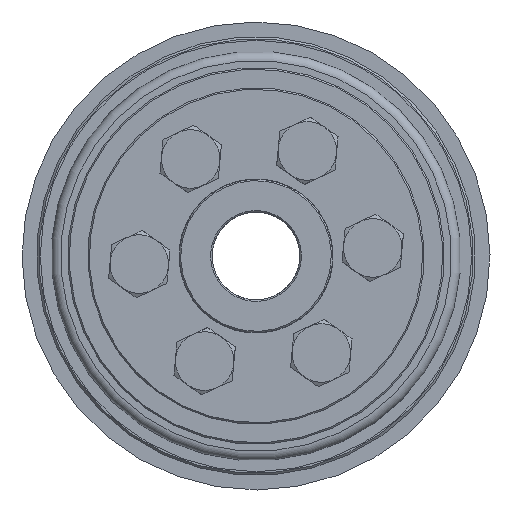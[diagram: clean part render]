
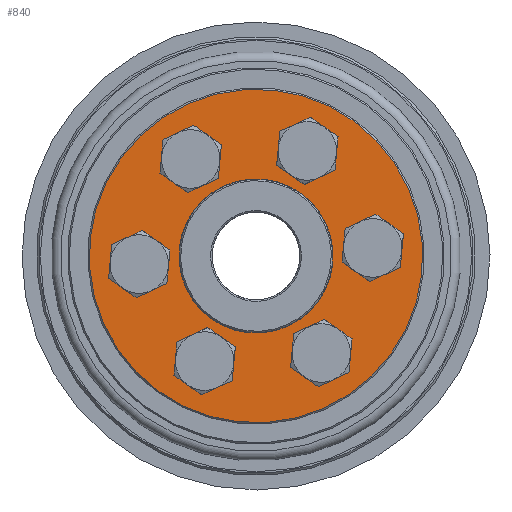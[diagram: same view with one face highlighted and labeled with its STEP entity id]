
A CAD part, left-side view. The second image highlights one B-rep face of the part: STEP entity #840.
In plain terms, the highlighted planar face has unit normal (-1, 0, 0).
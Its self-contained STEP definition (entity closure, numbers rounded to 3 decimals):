
#840 = ADVANCED_FACE( 'NONE', ( #1650, #1651, #1652, #1653, #1654, #1655, #1656, #1657 ), #1658, .F. );
#1650 = FACE_OUTER_BOUND( '', #2525, .T. );
#1651 = FACE_BOUND( '', #2526, .T. );
#1652 = FACE_BOUND( '', #2527, .T. );
#1653 = FACE_BOUND( '', #2528, .T. );
#1654 = FACE_BOUND( '', #2529, .T. );
#1655 = FACE_BOUND( '', #2530, .T. );
#1656 = FACE_BOUND( '', #2531, .T. );
#1657 = FACE_BOUND( '', #2532, .T. );
#1658 = PLANE( '', #2533 );
#2525 = EDGE_LOOP( '', ( #3610 ) );
#2526 = EDGE_LOOP( '', ( #3611 ) );
#2527 = EDGE_LOOP( '', ( #3612 ) );
#2528 = EDGE_LOOP( '', ( #3613 ) );
#2529 = EDGE_LOOP( '', ( #3614 ) );
#2530 = EDGE_LOOP( '', ( #3615 ) );
#2531 = EDGE_LOOP( '', ( #3616 ) );
#2532 = EDGE_LOOP( '', ( #3617 ) );
#2533 = AXIS2_PLACEMENT_3D( '', #3618, #3619, #3620 );
#3610 = ORIENTED_EDGE( '', *, *, #4334, .T. );
#3611 = ORIENTED_EDGE( '', *, *, #4244, .T. );
#3612 = ORIENTED_EDGE( '', *, *, #4562, .T. );
#3613 = ORIENTED_EDGE( '', *, *, #4563, .T. );
#3614 = ORIENTED_EDGE( '', *, *, #4564, .T. );
#3615 = ORIENTED_EDGE( '', *, *, #4247, .T. );
#3616 = ORIENTED_EDGE( '', *, *, #4565, .T. );
#3617 = ORIENTED_EDGE( '', *, *, #4321, .F. );
#3618 = CARTESIAN_POINT( '', ( 0., 10.5, 0. ) );
#3619 = DIRECTION( '', ( 1., 0., 0. ) );
#3620 = DIRECTION( '', ( 0., 1., 0. ) );
#4244 = EDGE_CURVE( 'NONE', #4738, #4738, #4739, .T. );
#4247 = EDGE_CURVE( 'NONE', #4743, #4743, #4744, .T. );
#4321 = EDGE_CURVE( 'NONE', #4868, #4868, #4869, .T. );
#4334 = EDGE_CURVE( 'NONE', #4888, #4888, #4889, .T. );
#4562 = EDGE_CURVE( 'NONE', #5240, #5240, #5241, .T. );
#4563 = EDGE_CURVE( 'NONE', #5242, #5242, #5243, .T. );
#4564 = EDGE_CURVE( 'NONE', #5244, #5244, #5245, .T. );
#4565 = EDGE_CURVE( 'NONE', #5246, #5246, #5247, .T. );
#4738 = VERTEX_POINT( '', #5456 );
#4739 = CIRCLE( '', #5457, 2.75 );
#4743 = VERTEX_POINT( '', #5461 );
#4744 = CIRCLE( '', #5462, 2.75 );
#4868 = VERTEX_POINT( '', #5717 );
#4869 = CIRCLE( '', #5718, 10.5 );
#4888 = VERTEX_POINT( '', #5741 );
#4889 = CIRCLE( '', #5742, 22.8 );
#5240 = VERTEX_POINT( '', #6312 );
#5241 = CIRCLE( '', #6313, 2.75 );
#5242 = VERTEX_POINT( '', #6314 );
#5243 = CIRCLE( '', #6315, 2.75 );
#5244 = VERTEX_POINT( '', #6316 );
#5245 = CIRCLE( '', #6317, 2.75 );
#5246 = VERTEX_POINT( '', #6318 );
#5247 = CIRCLE( '', #6319, 2.75 );
#5456 = CARTESIAN_POINT( '', ( 0., 8., 11.106 ) );
#5457 = AXIS2_PLACEMENT_3D( '', #6597, #6598, #6599 );
#5461 = CARTESIAN_POINT( '', ( 0., 8., -16.606 ) );
#5462 = AXIS2_PLACEMENT_3D( '', #6603, #6604, #6605 );
#5717 = CARTESIAN_POINT( '', ( 0., 0., 10.5 ) );
#5718 = AXIS2_PLACEMENT_3D( '', #6719, #6720, #6721 );
#5741 = CARTESIAN_POINT( '', ( 0., 0., -22.8 ) );
#5742 = AXIS2_PLACEMENT_3D( '', #6738, #6739, #6740 );
#6312 = CARTESIAN_POINT( '', ( 0., -8., 11.106 ) );
#6313 = AXIS2_PLACEMENT_3D( '', #7080, #7081, #7082 );
#6314 = CARTESIAN_POINT( '', ( 0., -16., -2.75 ) );
#6315 = AXIS2_PLACEMENT_3D( '', #7083, #7084, #7085 );
#6316 = CARTESIAN_POINT( '', ( 0., -8., -16.606 ) );
#6317 = AXIS2_PLACEMENT_3D( '', #7086, #7087, #7088 );
#6318 = CARTESIAN_POINT( '', ( 0., 16., -2.75 ) );
#6319 = AXIS2_PLACEMENT_3D( '', #7089, #7090, #7091 );
#6597 = CARTESIAN_POINT( '', ( 0., 8., 13.856 ) );
#6598 = DIRECTION( '', ( 1., 0., 0. ) );
#6599 = DIRECTION( '', ( 0., 0., -1. ) );
#6603 = CARTESIAN_POINT( '', ( 0., 8., -13.856 ) );
#6604 = DIRECTION( '', ( 1., 0., 0. ) );
#6605 = DIRECTION( '', ( 0., 0., -1. ) );
#6719 = CARTESIAN_POINT( '', ( 0., 0., 0. ) );
#6720 = DIRECTION( '', ( -1., 0., 0. ) );
#6721 = DIRECTION( '', ( 0., 0., 1. ) );
#6738 = CARTESIAN_POINT( '', ( 0., 0., 0. ) );
#6739 = DIRECTION( '', ( -1., 0., 0. ) );
#6740 = DIRECTION( '', ( 0., 0., -1. ) );
#7080 = CARTESIAN_POINT( '', ( 0., -8., 13.856 ) );
#7081 = DIRECTION( '', ( 1., 0., 0. ) );
#7082 = DIRECTION( '', ( 0., 0., -1. ) );
#7083 = CARTESIAN_POINT( '', ( 0., -16., 0. ) );
#7084 = DIRECTION( '', ( 1., 0., 0. ) );
#7085 = DIRECTION( '', ( 0., 0., -1. ) );
#7086 = CARTESIAN_POINT( '', ( 0., -8., -13.856 ) );
#7087 = DIRECTION( '', ( 1., 0., 0. ) );
#7088 = DIRECTION( '', ( 0., 0., -1. ) );
#7089 = CARTESIAN_POINT( '', ( 0., 16., 0. ) );
#7090 = DIRECTION( '', ( 1., 0., 0. ) );
#7091 = DIRECTION( '', ( 0., 0., -1. ) );
